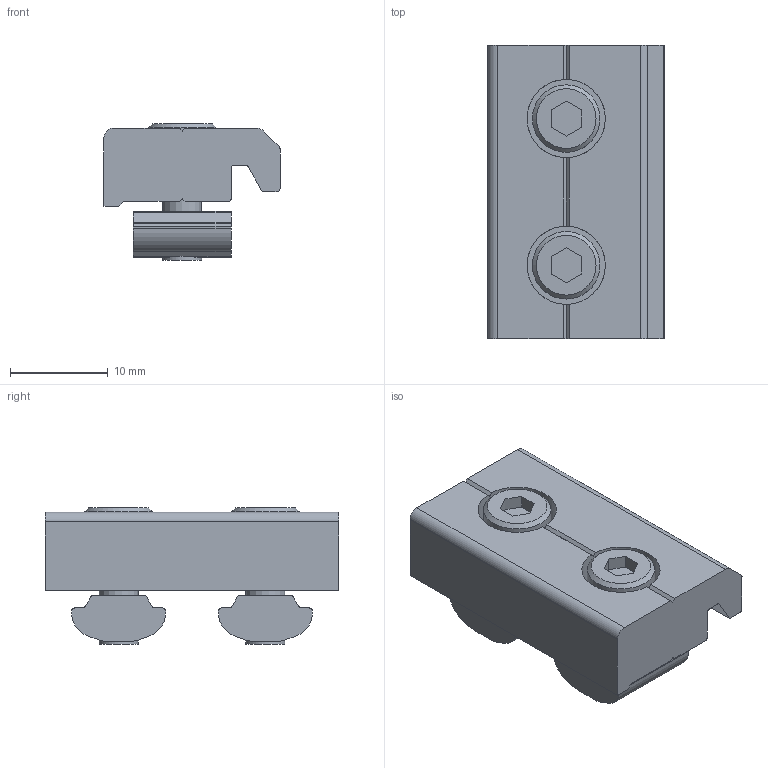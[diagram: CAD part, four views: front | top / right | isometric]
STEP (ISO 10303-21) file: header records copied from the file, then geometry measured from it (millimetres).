
FILE_DESCRIPTION(('STEP AP214'),'1');
FILE_NAME('SL1B-L30.stp','2016-10-19T01:11:11',(' '),(' '),'Spatial InterOp 3D',' ',' ');
FILE_SCHEMA(('automotive_design'));
Length unit declared in the file: millimetre
Products named in the file (4): SL1B-L30; SL1H-L30
Assembly tree (5 placements, depth 2):
  SL1B-L30
    SL1H-L30
    (unnamed)  x2
    (unnamed)  x2
Bounding box: 18 x 30 x 13.94 mm (x, y, z)
Volume: 4302.2 mm3; surface area: 3379.8 mm2
Topology: 5 solids, 5 shells, 120 faces, 324 edges, 214 vertices
Faces by surface type: plane 76, cylinder 40, cone 4
Full cylindrical faces by diameter (mm): 4 x2, 4.5 x2, 6.9 x2, 8 x2
Entity records: 3107 total; most frequent: CARTESIAN_POINT 467, DIRECTION 458, ORIENTED_EDGE 428, EDGE_CURVE 214, AXIS2_PLACEMENT_3D 161, VERTEX_POINT 146, LINE 136, VECTOR 136
